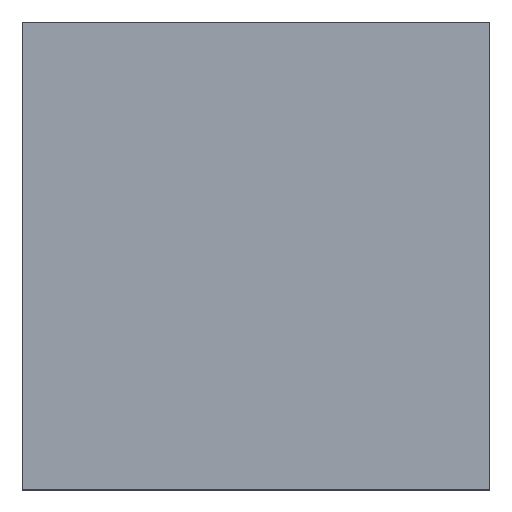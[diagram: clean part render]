
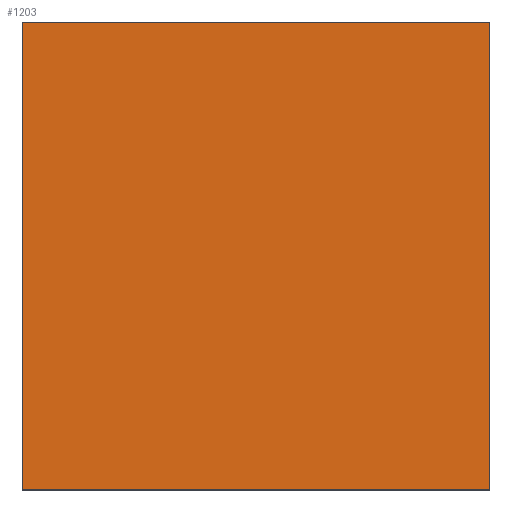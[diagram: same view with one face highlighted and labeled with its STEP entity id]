
A CAD part, top view. The second image highlights one B-rep face of the part: STEP entity #1203.
In plain terms, the highlighted planar face has unit normal (0, 0, 1).
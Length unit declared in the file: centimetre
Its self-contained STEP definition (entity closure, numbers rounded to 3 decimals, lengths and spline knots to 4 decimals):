
#8 = DIRECTION ( 'NONE',  ( 1., 0., 0. ) ) ;
#42 = VECTOR ( 'NONE', #753, 100. ) ;
#99 = CARTESIAN_POINT ( 'NONE',  ( 0., 0., 1000. ) ) ;
#115 = ORIENTED_EDGE ( 'NONE', *, *, #453, .T. ) ;
#122 = LINE ( 'NONE', #748, #1200 ) ;
#130 = CARTESIAN_POINT ( 'NONE',  ( 0., 1000., 1000. ) ) ;
#453 = EDGE_CURVE ( 'NONE', #880, #1848, #1367, .T. ) ;
#486 = EDGE_CURVE ( 'NONE', #784, #1862, #122, .T. ) ;
#582 = EDGE_CURVE ( 'NONE', #1848, #784, #1101, .T. ) ;
#596 = PLANE ( 'NONE',  #832 ) ;
#629 = VECTOR ( 'NONE', #8, 100. ) ;
#734 = DIRECTION ( 'NONE',  ( -1., 0., 0. ) ) ;
#748 = CARTESIAN_POINT ( 'NONE',  ( 1000., 1000., 1000. ) ) ;
#749 = FACE_OUTER_BOUND ( 'NONE', #1429, .T. ) ;
#753 = DIRECTION ( 'NONE',  ( 0., -1., 0. ) ) ;
#784 = VERTEX_POINT ( 'NONE', #1226 ) ;
#832 = AXIS2_PLACEMENT_3D ( 'NONE', #99, #1237, #1059 ) ;
#880 = VERTEX_POINT ( 'NONE', #1108 ) ;
#942 = ORIENTED_EDGE ( 'NONE', *, *, #582, .T. ) ;
#1031 = ORIENTED_EDGE ( 'NONE', *, *, #1139, .T. ) ;
#1046 = ORIENTED_EDGE ( 'NONE', *, *, #486, .T. ) ;
#1047 = DIRECTION ( 'NONE',  ( 0., 1., 0. ) ) ;
#1059 = DIRECTION ( 'NONE',  ( 1., 0., 0. ) ) ;
#1098 = VECTOR ( 'NONE', #734, 100. ) ;
#1101 = LINE ( 'NONE', #1422, #629 ) ;
#1108 = CARTESIAN_POINT ( 'NONE',  ( 0., 1000., 1000. ) ) ;
#1139 = EDGE_CURVE ( 'NONE', #1862, #880, #1991, .T. ) ;
#1200 = VECTOR ( 'NONE', #1047, 100. ) ;
#1203 = ADVANCED_FACE ( 'NONE', ( #749 ), #596, .T. ) ;
#1226 = CARTESIAN_POINT ( 'NONE',  ( 1000., 0., 1000. ) ) ;
#1237 = DIRECTION ( 'NONE',  ( 0., 0., 1. ) ) ;
#1247 = CARTESIAN_POINT ( 'NONE',  ( 0., 0., 1000. ) ) ;
#1367 = LINE ( 'NONE', #130, #42 ) ;
#1402 = CARTESIAN_POINT ( 'NONE',  ( 0., 1000., 1000. ) ) ;
#1422 = CARTESIAN_POINT ( 'NONE',  ( 0., 0., 1000. ) ) ;
#1429 = EDGE_LOOP ( 'NONE', ( #115, #942, #1046, #1031 ) ) ;
#1553 = CARTESIAN_POINT ( 'NONE',  ( 1000., 1000., 1000. ) ) ;
#1848 = VERTEX_POINT ( 'NONE', #1247 ) ;
#1862 = VERTEX_POINT ( 'NONE', #1553 ) ;
#1991 = LINE ( 'NONE', #1402, #1098 ) ;
